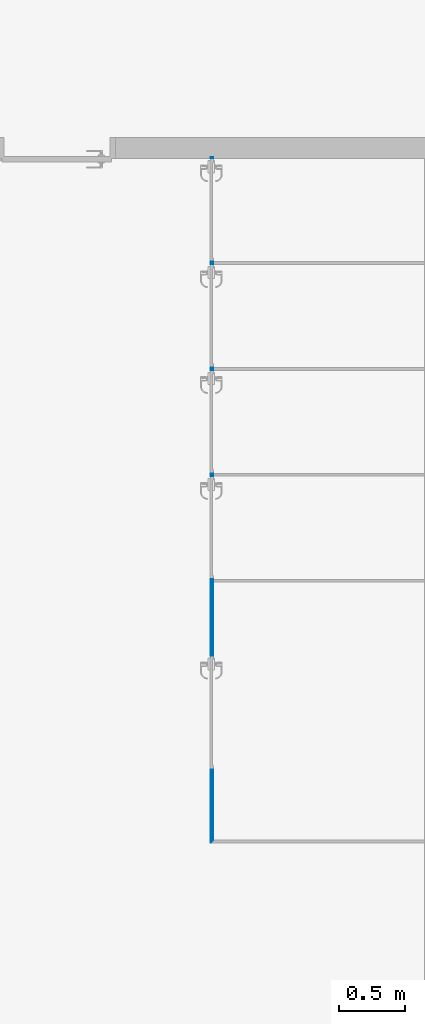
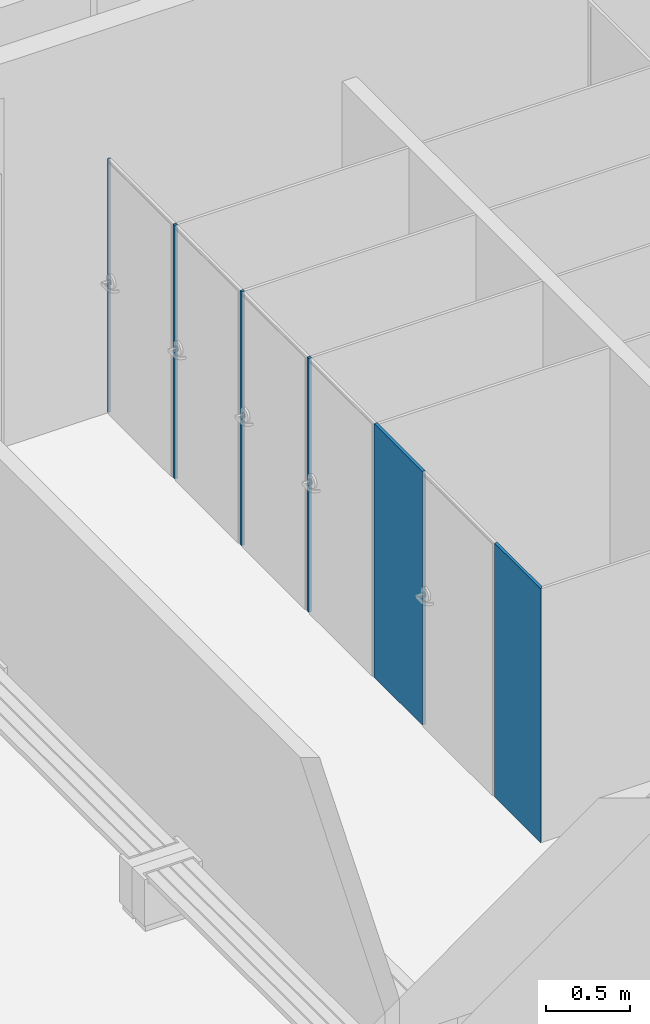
# One storey, part 21 of 45: 1 wall, 5 openings.
"""IFC2X3 building model written with IfcOpenShell, lengths in metres."""

import ifcopenshell
import ifcopenshell.guid

model = None  # the IFC model being written
_history = None  # IfcOwnerHistory: only IFC2X3 demands one
_inside = {}  # id of a spatial element -> (the spatial element, [elements in it])
_under = {}  # id of a project, library or spatial element -> (it, [spatial elements below it])
_declared = {}  # id of a project -> (the project, [libraries it declares])
_typed = {}  # id of a type object -> (the type object, [elements of that type])
_made_of = {}  # id of a material, layer set ... -> (it, [elements and type objects made of it])


def new_model(schema):
    """Start an empty IFC model of exactly this schema.

    Asked for "IFC4X3", IfcOpenShell would pick the latest addendum, in which some entities
    have other attributes; the version numbers below select the first issue.
    IFC2X3 requires an IfcOwnerHistory on every rooted entity: one is made here for all.
    """
    global model, _history
    if schema == "IFC4X3":
        model = ifcopenshell.file(schema_version=(4, 3, 0, 0))
    else:
        model = ifcopenshell.file(schema=schema)
    _inside.clear()
    _under.clear()
    _declared.clear()
    _typed.clear()
    _made_of.clear()
    _history = None
    if model.schema == "IFC2X3":
        org = make("IfcOrganization", Name="unknown")
        user = make(
            "IfcPersonAndOrganization",
            ThePerson=make("IfcPerson", FamilyName="unknown"),
            TheOrganization=org,
        )
        app = make(
            "IfcApplication",
            ApplicationDeveloper=org,
            Version="unknown",
            ApplicationFullName="unknown",
            ApplicationIdentifier="unknown",
        )
        _history = make(
            "IfcOwnerHistory",
            OwningUser=user,
            OwningApplication=app,
            ChangeAction="ADDED",
            CreationDate=0,
        )
    return model


def make(cls, **values):
    """One entity of the class cls with the attributes given. An attribute that is None is left unset."""
    return model.create_entity(
        cls, **{name: value for name, value in values.items() if value is not None}
    )


def entity(cls, *values):
    """Any entity or typed value of the class cls, its attributes in the order of the schema. None: left unset."""
    e = model.create_entity(cls)
    for i, value in enumerate(values):
        if value is not None:
            e[i] = value
    return e


def rooted(cls, **values):
    """An entity with a GlobalId (a new one), such as an element, a storey or a relation."""
    return make(cls, GlobalId=ifcopenshell.guid.new(), OwnerHistory=_history, **values)


def si_unit(unit_type, name, prefix=None):
    """IfcSIUnit, for example si_unit("LENGTHUNIT", "METRE", prefix="MILLI")."""
    return make("IfcSIUnit", UnitType=unit_type, Prefix=prefix, Name=name)


def converted_unit(unit_type, name, factor, base, dimensions=None, offset=None):
    """IfcConversionBasedUnit, such as the inch: factor (a typed value) times the base unit."""
    return make(
        "IfcConversionBasedUnit"
        if offset is None
        else "IfcConversionBasedUnitWithOffset",
        ConversionOffset=offset,
        Dimensions=None
        if dimensions is None
        else entity("IfcDimensionalExponents", *dimensions),
        UnitType=unit_type,
        Name=name,
        ConversionFactor=make(
            "IfcMeasureWithUnit", ValueComponent=factor, UnitComponent=base
        ),
    )


def money_unit(currency):
    """IfcMonetaryUnit."""
    return make("IfcMonetaryUnit", Currency=currency)


def assignment(units):
    """IfcUnitAssignment: the units of a project."""
    return None if units is None else make("IfcUnitAssignment", Units=units)


def point(xyz):
    """IfcCartesianPoint."""
    return None if xyz is None else make("IfcCartesianPoint", Coordinates=xyz)


def direction(xyz):
    """IfcDirection."""
    return None if xyz is None else make("IfcDirection", DirectionRatios=xyz)


def frame(location, z_axis=None, x_axis=None):
    """IfcAxis2Placement3D, a coordinate frame: its origin and axes. An axis left out is left unset."""
    return make(
        "IfcAxis2Placement3D",
        Location=point(location),
        Axis=direction(z_axis),
        RefDirection=direction(x_axis),
    )


def origin_with_axes():
    """The frame at (0, 0, 0) with the z axis (0, 0, 1) and the x axis (1, 0, 0) written out."""
    return frame((0.0, 0.0, 0.0), z_axis=(0.0, 0.0, 1.0), x_axis=(1.0, 0.0, 0.0))


def place(relative_to, where):
    """IfcLocalPlacement: puts the frame where relative to a parent placement (None: the world)."""
    return make(
        "IfcLocalPlacement", PlacementRelTo=relative_to, RelativePlacement=where
    )


def context(
    kind, dimensions, precision=None, world=None, true_north=None, identifier=None
):
    """IfcGeometricRepresentationContext, for example the 3D "Model" context."""
    return make(
        "IfcGeometricRepresentationContext",
        ContextIdentifier=identifier,
        ContextType=kind,
        CoordinateSpaceDimension=dimensions,
        Precision=precision,
        WorldCoordinateSystem=world,
        TrueNorth=true_north,
    )


def subcontext(parent, identifier, kind, view, scale=None):
    """IfcGeometricRepresentationSubContext, for example "Body" below "Model"."""
    return make(
        "IfcGeometricRepresentationSubContext",
        ContextIdentifier=identifier,
        ContextType=kind,
        ParentContext=parent,
        TargetScale=scale,
        TargetView=view,
    )


def project(units=None, contexts=None):
    """IfcProject with its units and contexts."""
    return rooted(
        "IfcProject",
        Name="project",
        RepresentationContexts=contexts,
        UnitsInContext=assignment(units),
    )


def spatial(cls, under=None, at=None, **own):
    """A site, building, storey or space (cls), placed at a placement, below another one or the project."""
    s = rooted(cls, ObjectPlacement=at, **own)
    if under is not None:
        _under.setdefault(under.id(), (under, []))[1].append(s)
    return s


def polyline(points):
    """IfcPolyline through the points."""
    return make("IfcPolyline", Points=[point(p) for p in points])


def outline(outer, holes=None, kind="AREA"):
    """IfcArbitraryClosedProfileDef: a profile drawn as a closed curve; with holes, ...WithVoids."""
    if holes is None:
        return make("IfcArbitraryClosedProfileDef", ProfileType=kind, OuterCurve=outer)
    return make(
        "IfcArbitraryProfileDefWithVoids",
        ProfileType=kind,
        OuterCurve=outer,
        InnerCurves=holes,
    )


def extrude(swept, where, along, depth):
    """IfcExtrudedAreaSolid: the profile swept, set in the frame where, extruded along a direction by depth."""
    return make(
        "IfcExtrudedAreaSolid",
        SweptArea=swept,
        Position=where,
        ExtrudedDirection=direction(along),
        Depth=depth,
    )


def shape(context_of_items, identifier, shape_type, items):
    """IfcShapeRepresentation: the items that make up one representation, for example the "Body"."""
    return make(
        "IfcShapeRepresentation",
        ContextOfItems=context_of_items,
        RepresentationIdentifier=identifier,
        RepresentationType=shape_type,
        Items=items,
    )


def material(Name=None, Category=None):
    """IfcMaterial."""
    return make("IfcMaterial", Name=Name, Category=Category)


def layer(
    of_material, thickness, ventilated=None, Name=None, Category=None, Priority=None
):
    """IfcMaterialLayer: one layer of a wall or slab, of a material (None: an air gap)."""
    return make(
        "IfcMaterialLayer",
        Material=of_material,
        LayerThickness=thickness,
        IsVentilated=ventilated,
        Name=Name,
        Category=Category,
        Priority=Priority,
    )


def layer_set(layers, Name=None):
    """IfcMaterialLayerSet."""
    return make("IfcMaterialLayerSet", MaterialLayers=layers, LayerSetName=Name)


def layer_usage(for_layer_set, set_direction, sense, offset, extent=None):
    """IfcMaterialLayerSetUsage: how a layer set lies in its element."""
    return make(
        "IfcMaterialLayerSetUsage",
        ForLayerSet=for_layer_set,
        LayerSetDirection=set_direction,
        DirectionSense=sense,
        OffsetFromReferenceLine=offset,
        ReferenceExtent=extent,
    )


def made_of(thing, what):
    """Note that an element or type object is made of a material, layer set ...; save() writes the relation."""
    if what is not None:
        _made_of.setdefault(what.id(), (what, []))[1].append(thing)
    return thing


def type_object(cls, material=None, **own):
    """A type object (cls), such as IfcWallType, which elements share."""
    return made_of(rooted(cls, **own), material)


def element(
    cls,
    number,
    at=None,
    inside=None,
    cuts=None,
    type_object=None,
    material=None,
    context=None,
    identifier="Body",
    shape_type=None,
    held_by="IfcProductDefinitionShape",
    body=None,
    shapes=None,
    **own,
):
    """One element of the class cls, such as IfcWall. Its Tag is "e" and its number.

    at: its placement. inside: the storey or other place that contains it. cuts: it is an
    opening in that element (IfcRelVoidsElement). A single representation is given by context,
    identifier, shape_type and body (its items); several are given by shapes. held_by: the class
    of the entity that holds the representations. save() writes the other relations.
    """
    e = rooted(cls, Tag="e%d" % number, ObjectPlacement=at, **own)
    if body is not None:
        shapes = [shape(context, identifier, shape_type, body)]
    if shapes is not None:
        e.Representation = make(held_by, Representations=shapes)
    if inside is not None:
        _inside.setdefault(inside.id(), (inside, []))[1].append(e)
    if cuts is not None:
        rooted(
            "IfcRelVoidsElement", RelatingBuildingElement=cuts, RelatedOpeningElement=e
        )
    if type_object is not None:
        _typed.setdefault(type_object.id(), (type_object, []))[1].append(e)
    return made_of(e, material)


def aggregate(whole, parts):
    """IfcRelAggregates: a whole, such as a stair, and the parts it consists of."""
    return rooted("IfcRelAggregates", RelatingObject=whole, RelatedObjects=parts)


def save(model, path):
    """Write the relations noted so far, then the file.

    IfcRelAggregates (storeys below a building ...), IfcRelContainedInSpatialStructure (elements
    in a storey), IfcRelDefinesByType, IfcRelAssociatesMaterial and IfcRelDeclares: one each for
    every whole, place, type object, material and project.
    """
    for whole, parts in _under.values():
        aggregate(whole, parts)
    for where, things in _inside.values():
        rooted(
            "IfcRelContainedInSpatialStructure",
            RelatedElements=things,
            RelatingStructure=where,
        )
    for kind, things in _typed.values():
        rooted("IfcRelDefinesByType", RelatedObjects=things, RelatingType=kind)
    for what, things in _made_of.values():
        rooted("IfcRelAssociatesMaterial", RelatedObjects=things, RelatingMaterial=what)
    for by, libraries in _declared.values():
        rooted("IfcRelDeclares", RelatingContext=by, RelatedDefinitions=libraries)
    model.write(path)


model = new_model("IFC2X3")

# Units and contexts
model_context = context("Model", 3, precision=1e-05, world=origin_with_axes(), true_north=direction((0.0, 1.0)))
body_context = subcontext(model_context, "Body", "Model", "MODEL_VIEW")
ifc_project = project(units=[si_unit("LENGTHUNIT", "METRE"), si_unit("AREAUNIT", "SQUARE_METRE"), si_unit("VOLUMEUNIT", "CUBIC_METRE"), converted_unit("PLANEANGLEUNIT", "DEGREE", entity("IfcPlaneAngleMeasure", 0.0174532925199), si_unit("PLANEANGLEUNIT", "RADIAN"), dimensions=[0, 0, 0, 0, 0, 0, 0]), si_unit("SOLIDANGLEUNIT", "STERADIAN"), money_unit("EUR"), converted_unit("TIMEUNIT", "Year", entity("IfcTimeMeasure", 31556926.0), si_unit("TIMEUNIT", "SECOND"), dimensions=[0, 0, 0, 0, 0, 0, 0]), si_unit("MASSUNIT", "GRAM"), si_unit("THERMODYNAMICTEMPERATUREUNIT", "DEGREE_CELSIUS"), si_unit("LUMINOUSINTENSITYUNIT", "LUMEN")], contexts=[model_context])

# Site, building, storey
site_placement = place(None, origin_with_axes())
site = spatial("IfcSite", under=ifc_project, at=site_placement, Name="Site", CompositionType="ELEMENT")
building_placement = place(site_placement, origin_with_axes())
building = spatial("IfcBuilding", under=site, at=building_placement, Name="Bâtiment", CompositionType="ELEMENT")
storey_placement = place(building_placement, origin_with_axes())
storey = spatial("IfcBuildingStorey", under=building, at=storey_placement, Name="NIVEAU BAS GYMNASE", CompositionType="ELEMENT", Elevation=0.0)

# Wall, openings
ifc_material = material(Name="Hachure solide 3821565075")
ifc_layer = layer(ifc_material, 0.02, ventilated="UNKNOWN")
ifc_layer_set = layer_set([ifc_layer], Name="Hachure solide 3821565075 0.02")
ifc_layer_usage = layer_usage(ifc_layer_set, "AXIS2", "POSITIVE", 0.0)
wall_type = type_object("IfcWallType", Name="Hachure solide 3821565075 20", PredefinedType="NOTDEFINED")
wall_placement = place(storey_placement, frame((61.5087025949, 7.95895676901, 0.0), z_axis=(0.0, 0.0, 1.0), x_axis=(0.0, 1.0, 0.0)))
wall = element("IfcWallStandardCase", 1, at=wall_placement, inside=storey, type_object=wall_type, material=ifc_layer_usage, Name="Mur-022", context=body_context, shape_type="SweptSolid", body=[
    extrude(outline(polyline([(0.0, 0.0), (5.15985894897, 0.0), (5.15985894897, 0.02), (-0.02, 0.02), (0.0, 0.0)])), origin_with_axes(), (0.0, 0.0, 1.0), 1.85),
])
opening_1_placement = place(wall_placement, frame((2.35973397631, 0.0, -0.02), z_axis=(0.0, 0.0, 1.0), x_axis=(1.0, 0.0, 0.0)))
element("IfcOpeningElement", 2, at=opening_1_placement, cuts=wall, Name="Por-017", context=body_context, shape_type="SweptSolid", body=[
    extrude(outline(polyline([(0.39, 0.0), (-0.39, 0.0), (-0.39, -1.87), (0.39, -1.87), (0.39, 0.0)])), frame((0.0, -0.02, 0.0), z_axis=(0.0, 1.0, 0.0), x_axis=(1.0, 0.0, 0.0)), (0.0, 0.0, 1.0), 0.04),
])
opening_2_placement = place(wall_placement, frame((3.15985894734, 0.0, -0.02), z_axis=(0.0, 0.0, 1.0), x_axis=(1.0, 0.0, 0.0)))
element("IfcOpeningElement", 3, at=opening_2_placement, cuts=wall, Name="Por-017", context=body_context, shape_type="SweptSolid", body=[
    extrude(outline(polyline([(0.39, 0.0), (-0.39, 0.0), (-0.39, -1.87), (0.39, -1.87), (0.39, 0.0)])), frame((0.0, -0.02, 0.0), z_axis=(0.0, 1.0, 0.0), x_axis=(1.0, 0.0, 0.0)), (0.0, 0.0, 1.0), 0.04),
])
opening_3_placement = place(wall_placement, frame((3.95985894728, 0.0, -0.02), z_axis=(0.0, 0.0, 1.0), x_axis=(1.0, 0.0, 0.0)))
element("IfcOpeningElement", 4, at=opening_3_placement, cuts=wall, Name="Por-018", context=body_context, shape_type="SweptSolid", body=[
    extrude(outline(polyline([(0.39, 0.0), (-0.39, 0.0), (-0.39, -1.87), (0.39, -1.87), (0.39, 0.0)])), frame((0.0, -0.02, 0.0), z_axis=(0.0, 1.0, 0.0), x_axis=(1.0, 0.0, 0.0)), (0.0, 0.0, 1.0), 0.04),
])
opening_4_placement = place(wall_placement, frame((4.75985894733, 0.0, -0.02), z_axis=(0.0, 0.0, 1.0), x_axis=(1.0, 0.0, 0.0)))
element("IfcOpeningElement", 5, at=opening_4_placement, cuts=wall, Name="Por-019", context=body_context, shape_type="SweptSolid", body=[
    extrude(outline(polyline([(0.39, 0.0), (-0.39, 0.0), (-0.39, -1.87), (0.39, -1.87), (0.39, 0.0)])), frame((0.0, -0.02, 0.0), z_axis=(0.0, 1.0, 0.0), x_axis=(1.0, 0.0, 0.0)), (0.0, 0.0, 1.0), 0.04),
])
opening_5_placement = place(wall_placement, frame((0.963207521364, 0.0, -0.02), z_axis=(0.0, 0.0, 1.0), x_axis=(1.0, 0.0, 0.0)))
element("IfcOpeningElement", 6, at=opening_5_placement, cuts=wall, Name="Por-019", context=body_context, shape_type="SweptSolid", body=[
    extrude(outline(polyline([(0.43, 0.0), (-0.43, 0.0), (-0.43, -1.87), (0.43, -1.87), (0.43, 0.0)])), frame((0.0, -0.02, 0.0), z_axis=(0.0, 1.0, 0.0), x_axis=(1.0, 0.0, 0.0)), (0.0, 0.0, 1.0), 0.04),
])

save(model, "model.ifc")
